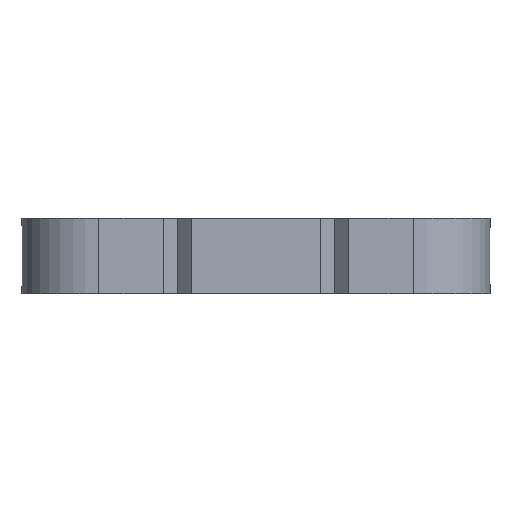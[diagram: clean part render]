
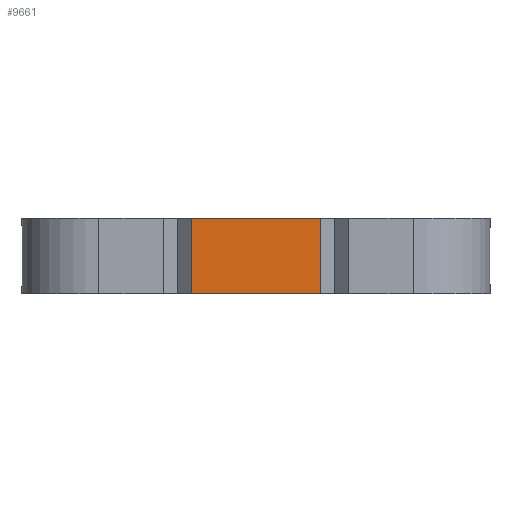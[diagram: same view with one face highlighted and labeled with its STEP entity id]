
A CAD part, left-side view. The second image highlights one B-rep face of the part: STEP entity #9661.
In plain terms, the highlighted planar face has unit normal (-1, 0, 0).
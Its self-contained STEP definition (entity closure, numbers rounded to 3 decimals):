
#467 = VECTOR ( 'NONE', #2372, 1000. ) ;
#1047 = CARTESIAN_POINT ( 'NONE',  ( -25.25, -5.219, 1. ) ) ;
#2085 = CARTESIAN_POINT ( 'NONE',  ( -25.25, 5.219, -3.05 ) ) ;
#2180 = ORIENTED_EDGE ( 'NONE', *, *, #3552, .F. ) ;
#2372 = DIRECTION ( 'NONE',  ( 0., 0., -1. ) ) ;
#2571 = DIRECTION ( 'NONE',  ( 1., 0., 0. ) ) ;
#2582 = CARTESIAN_POINT ( 'NONE',  ( -25.25, 5.219, 1. ) ) ;
#2687 = AXIS2_PLACEMENT_3D ( 'NONE', #18566, #2571, #16823 ) ;
#3552 = EDGE_CURVE ( 'NONE', #17324, #13434, #17371, .T. ) ;
#4328 = LINE ( 'NONE', #2582, #467 ) ;
#5624 = VERTEX_POINT ( 'NONE', #22136 ) ;
#5666 = CARTESIAN_POINT ( 'NONE',  ( -25.25, 5.219, 3.05 ) ) ;
#5764 = LINE ( 'NONE', #2085, #12631 ) ;
#6220 = DIRECTION ( 'NONE',  ( 0., 0., -1. ) ) ;
#7043 = ORIENTED_EDGE ( 'NONE', *, *, #18362, .T. ) ;
#9661 = ADVANCED_FACE ( 'NONE', ( #20415 ), #11771, .F. ) ;
#11163 = VERTEX_POINT ( 'NONE', #20012 ) ;
#11195 = VECTOR ( 'NONE', #6220, 1000. ) ;
#11770 = VECTOR ( 'NONE', #13694, 1000. ) ;
#11771 = PLANE ( 'NONE',  #2687 ) ;
#12045 = EDGE_CURVE ( 'NONE', #17324, #11163, #4328, .T. ) ;
#12631 = VECTOR ( 'NONE', #15879, 1000. ) ;
#13434 = VERTEX_POINT ( 'NONE', #19768 ) ;
#13694 = DIRECTION ( 'NONE',  ( 0., -1., 0. ) ) ;
#13739 = ORIENTED_EDGE ( 'NONE', *, *, #15830, .F. ) ;
#14967 = LINE ( 'NONE', #1047, #11195 ) ;
#15830 = EDGE_CURVE ( 'NONE', #13434, #5624, #14967, .T. ) ;
#15879 = DIRECTION ( 'NONE',  ( 0., -1., 0. ) ) ;
#16823 = DIRECTION ( 'NONE',  ( 0., 1., 0. ) ) ;
#17324 = VERTEX_POINT ( 'NONE', #5666 ) ;
#17371 = LINE ( 'NONE', #22686, #11770 ) ;
#18362 = EDGE_CURVE ( 'NONE', #11163, #5624, #5764, .T. ) ;
#18566 = CARTESIAN_POINT ( 'NONE',  ( -25.25, 0., 1. ) ) ;
#19768 = CARTESIAN_POINT ( 'NONE',  ( -25.25, -5.219, 3.05 ) ) ;
#20012 = CARTESIAN_POINT ( 'NONE',  ( -25.25, 5.219, -3.05 ) ) ;
#20415 = FACE_OUTER_BOUND ( 'NONE', #22138, .T. ) ;
#20959 = ORIENTED_EDGE ( 'NONE', *, *, #12045, .T. ) ;
#22136 = CARTESIAN_POINT ( 'NONE',  ( -25.25, -5.219, -3.05 ) ) ;
#22138 = EDGE_LOOP ( 'NONE', ( #20959, #7043, #13739, #2180 ) ) ;
#22686 = CARTESIAN_POINT ( 'NONE',  ( -25.25, 5.219, 3.05 ) ) ;
